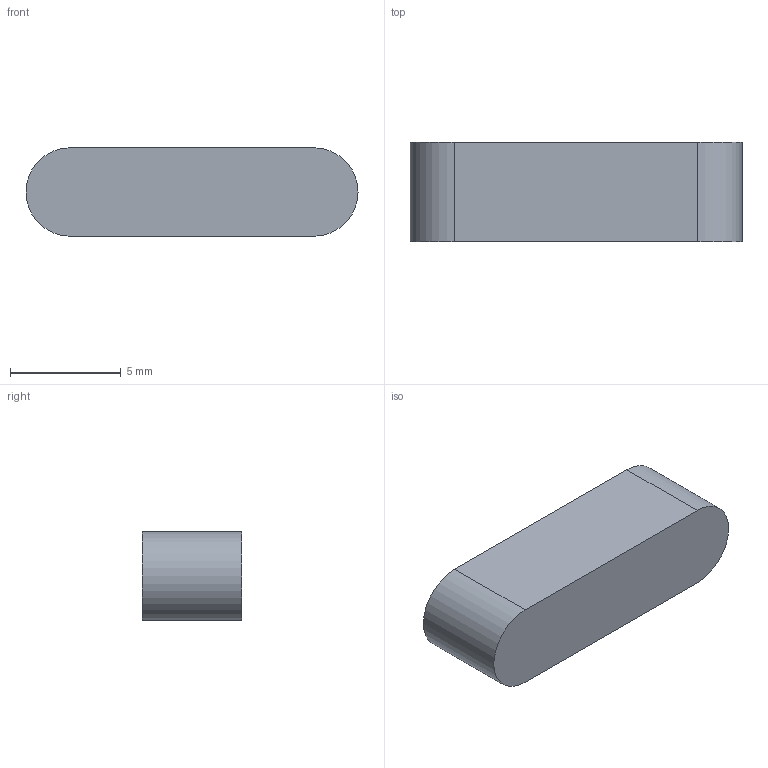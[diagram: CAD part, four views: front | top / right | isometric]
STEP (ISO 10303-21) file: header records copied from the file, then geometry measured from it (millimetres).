
FILE_DESCRIPTION(/* description */ ('CRADLE'),/* implementation_level */ '2;1');
FILE_NAME(/* name */ 'C:\Users\Apardo\Documents\Proyectos\Dietrich\Proyecto 1\PLATE ROLLING MACHINE\STEP\1.14 CRADLE.stp',/* time_stamp */ '2020-11-03T20:43:28-04:00',/* author */ ('Apardo'),/* organization */ ('18'),/* preprocessor_version */ 'ST-DEVELOPER v18',/* originating_system */ 'Autodesk Inventor 2020',/* authorisation */ '');
FILE_SCHEMA (('AUTOMOTIVE_DESIGN { 1 0 10303 214 3 1 1 }'));
Length unit declared in the file: millimetre
Products named in the file (1): CRADLE
Bounding box: 15 x 4.5 x 4 mm (x, y, z)
Volume: 254.5 mm3; surface area: 268.7 mm2
Topology: 1 solids, 1 shells, 6 faces, 12 edges, 8 vertices
Faces by surface type: plane 4, cylinder 2
Entity records: 201 total; most frequent: DIRECTION 30, CARTESIAN_POINT 27, ORIENTED_EDGE 24, EDGE_CURVE 12, AXIS2_PLACEMENT_3D 11, LINE 8, VECTOR 8, VERTEX_POINT 8
